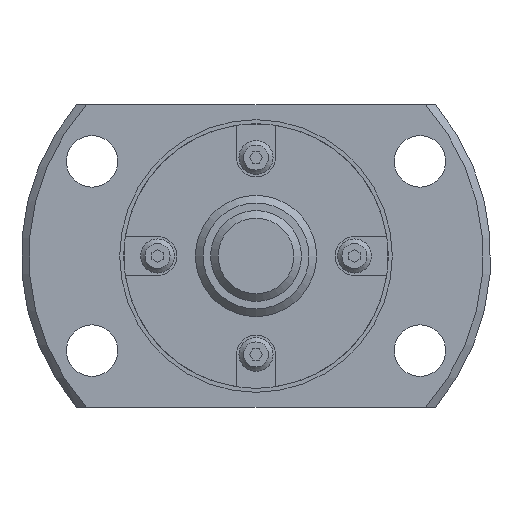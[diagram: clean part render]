
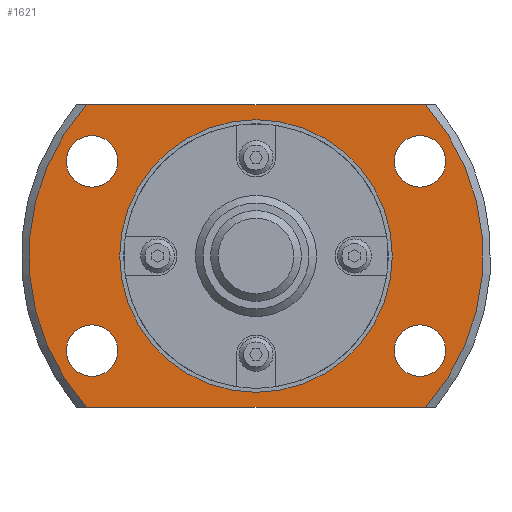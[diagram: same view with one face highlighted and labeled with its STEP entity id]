
A CAD part, left-side view. The second image highlights one B-rep face of the part: STEP entity #1621.
In plain terms, the highlighted planar face has unit normal (-1, 0, 0).
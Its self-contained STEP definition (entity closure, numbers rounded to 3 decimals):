
#108=CIRCLE('',#1776,15.);
#129=CIRCLE('',#1805,8.725);
#130=CIRCLE('',#1807,1.7);
#131=CIRCLE('',#1808,1.7);
#132=CIRCLE('',#1809,1.7);
#133=CIRCLE('',#1810,1.7);
#134=CIRCLE('',#1811,15.);
#308=ORIENTED_EDGE('',*,*,#683,.T.);
#309=ORIENTED_EDGE('',*,*,#684,.T.);
#310=ORIENTED_EDGE('',*,*,#685,.T.);
#311=ORIENTED_EDGE('',*,*,#686,.T.);
#312=ORIENTED_EDGE('',*,*,#640,.F.);
#313=ORIENTED_EDGE('',*,*,#687,.T.);
#314=ORIENTED_EDGE('',*,*,#688,.F.);
#315=ORIENTED_EDGE('',*,*,#689,.T.);
#316=ORIENTED_EDGE('',*,*,#682,.T.);
#640=EDGE_CURVE('',#843,#844,#108,.T.);
#682=EDGE_CURVE('',#880,#880,#129,.T.);
#683=EDGE_CURVE('',#881,#881,#130,.T.);
#684=EDGE_CURVE('',#882,#882,#131,.T.);
#685=EDGE_CURVE('',#883,#883,#132,.T.);
#686=EDGE_CURVE('',#884,#884,#133,.T.);
#687=EDGE_CURVE('',#843,#885,#992,.T.);
#688=EDGE_CURVE('',#886,#885,#134,.T.);
#689=EDGE_CURVE('',#886,#844,#993,.T.);
#843=VERTEX_POINT('',#2561);
#844=VERTEX_POINT('',#2563);
#880=VERTEX_POINT('',#2658);
#881=VERTEX_POINT('',#2661);
#882=VERTEX_POINT('',#2663);
#883=VERTEX_POINT('',#2665);
#884=VERTEX_POINT('',#2667);
#885=VERTEX_POINT('',#2669);
#886=VERTEX_POINT('',#2671);
#992=LINE('',#2668,#1114);
#993=LINE('',#2672,#1115);
#1114=VECTOR('',#2149,1000.);
#1115=VECTOR('',#2152,1000.);
#1251=EDGE_LOOP('',(#308));
#1252=EDGE_LOOP('',(#309));
#1253=EDGE_LOOP('',(#310));
#1254=EDGE_LOOP('',(#311));
#1255=EDGE_LOOP('',(#312,#313,#314,#315));
#1256=EDGE_LOOP('',(#316));
#1417=FACE_BOUND('',#1251,.T.);
#1418=FACE_BOUND('',#1252,.T.);
#1419=FACE_BOUND('',#1253,.T.);
#1420=FACE_BOUND('',#1254,.T.);
#1421=FACE_BOUND('',#1255,.T.);
#1422=FACE_BOUND('',#1256,.T.);
#1536=PLANE('',#1806);
#1621=ADVANCED_FACE('',(#1417,#1418,#1419,#1420,#1421,#1422),#1536,.F.);
#1776=AXIS2_PLACEMENT_3D('',#2562,#2061,#2062);
#1805=AXIS2_PLACEMENT_3D('',#2657,#2137,#2138);
#1806=AXIS2_PLACEMENT_3D('',#2659,#2139,#2140);
#1807=AXIS2_PLACEMENT_3D('',#2660,#2141,#2142);
#1808=AXIS2_PLACEMENT_3D('',#2662,#2143,#2144);
#1809=AXIS2_PLACEMENT_3D('',#2664,#2145,#2146);
#1810=AXIS2_PLACEMENT_3D('',#2666,#2147,#2148);
#1811=AXIS2_PLACEMENT_3D('',#2670,#2150,#2151);
#2061=DIRECTION('',(1.,0.,0.));
#2062=DIRECTION('',(0.,0.,-1.));
#2137=DIRECTION('',(1.,0.,0.));
#2138=DIRECTION('',(0.,0.,-1.));
#2139=DIRECTION('',(1.,0.,0.));
#2140=DIRECTION('',(0.,0.,-1.));
#2141=DIRECTION('',(1.,0.,0.));
#2142=DIRECTION('',(0.,0.,-1.));
#2143=DIRECTION('',(1.,0.,0.));
#2144=DIRECTION('',(0.,0.,-1.));
#2145=DIRECTION('',(1.,0.,0.));
#2146=DIRECTION('',(0.,0.,-1.));
#2147=DIRECTION('',(1.,0.,0.));
#2148=DIRECTION('',(0.,0.,-1.));
#2149=DIRECTION('',(0.,-1.,0.));
#2150=DIRECTION('',(1.,0.,0.));
#2151=DIRECTION('',(0.,0.,-1.));
#2152=DIRECTION('',(0.,1.,0.));
#2561=CARTESIAN_POINT('',(10.,11.18,-10.));
#2562=CARTESIAN_POINT('',(10.,0.,0.));
#2563=CARTESIAN_POINT('',(10.,11.18,10.));
#2657=CARTESIAN_POINT('',(10.,0.,0.));
#2658=CARTESIAN_POINT('',(10.,0.,-8.725));
#2659=CARTESIAN_POINT('',(10.,8.725,0.));
#2660=CARTESIAN_POINT('',(10.,-10.825,-6.25));
#2661=CARTESIAN_POINT('',(10.,-10.825,-7.95));
#2662=CARTESIAN_POINT('',(10.,-10.825,6.25));
#2663=CARTESIAN_POINT('',(10.,-10.825,4.55));
#2664=CARTESIAN_POINT('',(10.,10.825,-6.25));
#2665=CARTESIAN_POINT('',(10.,10.825,-7.95));
#2666=CARTESIAN_POINT('',(10.,10.825,6.25));
#2667=CARTESIAN_POINT('',(10.,10.825,4.55));
#2668=CARTESIAN_POINT('',(10.,8.725,-10.));
#2669=CARTESIAN_POINT('',(10.,-11.18,-10.));
#2670=CARTESIAN_POINT('',(10.,0.,0.));
#2671=CARTESIAN_POINT('',(10.,-11.18,10.));
#2672=CARTESIAN_POINT('',(10.,8.725,10.));
